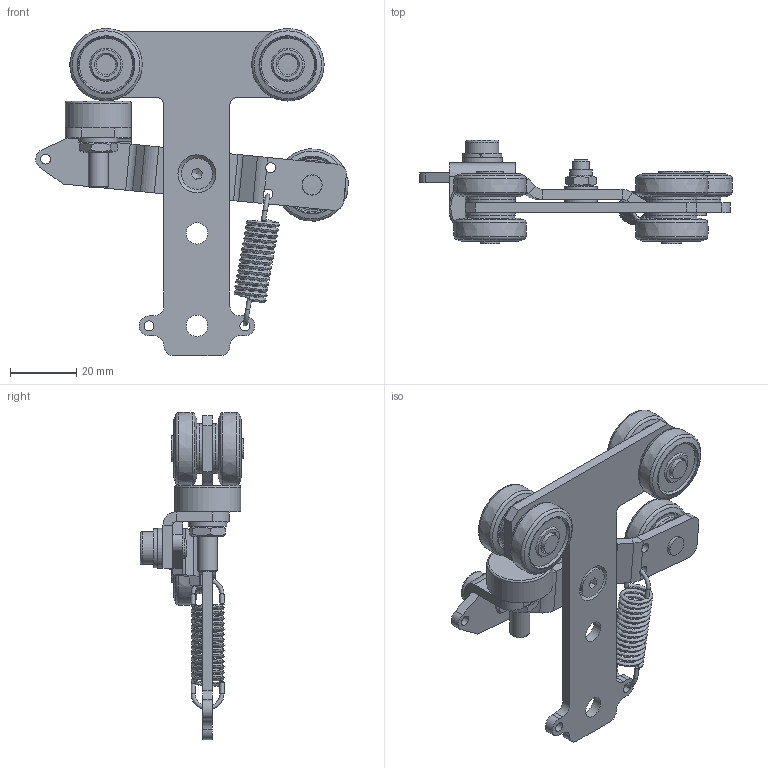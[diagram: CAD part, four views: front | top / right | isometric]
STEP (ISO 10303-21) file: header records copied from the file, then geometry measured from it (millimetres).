
FILE_DESCRIPTION(/* description */ ('Biegebrennteil'),/* implementation_level */ '2;1');
FILE_NAME(/* name */ 'Q:\sge-ma\Produktmanagement-STB\STB\Workspace\TraceParts\Doppelrolle mit Stopper\010332830.stp',/* time_stamp */ '2018-03-07T13:04:17+01:00',/* author */ ('avschreier'),/* organization */ (''),/* preprocessor_version */ 'ST-DEVELOPER v16.1',/* originating_system */ 'Autodesk Inventor 2016',/* authorisation */ '');
FILE_SCHEMA (('CONFIG_CONTROL_DESIGN'));
Length unit declared in the file: millimetre
Products named in the file (19): 337000362; 337000360; 337000359; 337000361; Gutekunst_RZ-109E-10I; 000303230; 000226090; 000304010; DIN 128 - A6; DIN_EN_ISO_4035-M6_en; DIN_7984-M6x10_cz; DIN_EN_ISO_10642-M5x16_en; DIN_125-A_6,4_en; DIN_125-A_5,3_en; DIN_EN_ISO_7040-M5_en; Norelem-talirek; Norelem-gumovy_doraz; Norelem_gummi_metall_puffer-26106-02000855; 010332830
Assembly tree (34 placements, depth 3):
  010332830
    337000362
    337000360
    337000359
    337000361
    Gutekunst_RZ-109E-10I
    000303230  x5
    000226090  x10
    000304010  x2
    DIN 128 - A6  x2
    DIN_EN_ISO_4035-M6_en
    DIN_7984-M6x10_cz
    DIN_EN_ISO_10642-M5x16_en
    DIN_125-A_6,4_en
    DIN_125-A_5,3_en  x2
    DIN_EN_ISO_7040-M5_en
    Norelem_gummi_metall_puffer-26106-02000855
      Norelem-talirek
      Norelem-gumovy_doraz
Bounding box: 94.57 x 31.4 x 99 mm (x, y, z)
Volume: 32650.9 mm3; surface area: 29145.5 mm2
Topology: 34 solids, 34 shells, 357 faces, 725 edges, 455 vertices
Faces by surface type: plane 176, cylinder 95, cone 55, torus 22, bspline 7, sphere 2
Full cylindrical faces by diameter (mm): 1.25 x4, 3 x5, 4.134 x1, 4.917 x2, 5 x1, 5.3 x2, 5.5 x1, 6 x10, 6.1 x3, 6.4 x11, 6.5 x4, 6.9 x1, 8 x3, 9.43 x1, 10 x3, 12 x1, 15 x12, 20 x1
Entity records: 9499 total; most frequent: CARTESIAN_POINT 4195, DIRECTION 1112, ORIENTED_EDGE 840, AXIS2_PLACEMENT_3D 459, EDGE_CURVE 420, EDGE_LOOP 350, VERTEX_POINT 302, FACE_OUTER_BOUND 231
